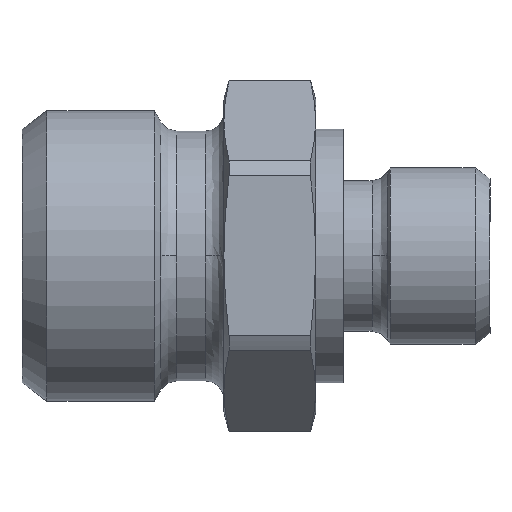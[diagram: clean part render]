
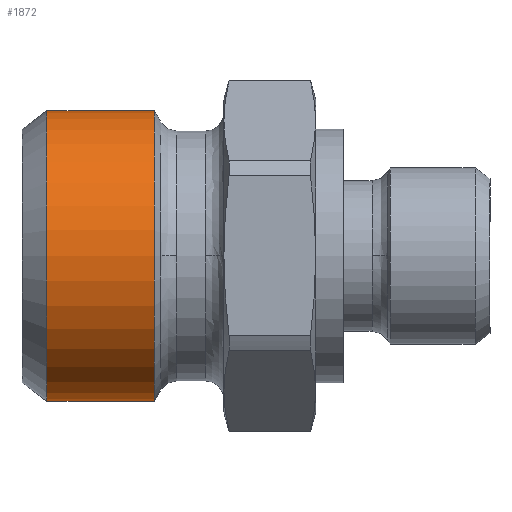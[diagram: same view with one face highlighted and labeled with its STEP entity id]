
A CAD part, top view. The second image highlights one B-rep face of the part: STEP entity #1872.
In plain terms, the highlighted cylindrical face has radius 7.925 mm (diameter 15.85 mm), a partial arc.
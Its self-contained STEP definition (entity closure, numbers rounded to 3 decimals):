
#908=CARTESIAN_POINT('',(0.,-7.925,12.14));
#909=VERTEX_POINT('',#908);
#910=CARTESIAN_POINT('',(0.,-7.925,6.3));
#911=VERTEX_POINT('',#910);
#912=CARTESIAN_POINT('',(0.,-7.925,12.14));
#913=DIRECTION('',(0.0,0.0,-1.0));
#914=VECTOR('',#913,5.84);
#915=LINE('',#912,#914);
#916=EDGE_CURVE('',#909,#911,#915,.T.);
#918=CARTESIAN_POINT('',(0.,7.925,12.14));
#919=VERTEX_POINT('',#918);
#927=CARTESIAN_POINT('',(0.,7.925,6.3));
#928=VERTEX_POINT('',#927);
#929=CARTESIAN_POINT('',(0.,7.925,6.3));
#930=DIRECTION('',(0.0,0.0,1.0));
#931=VECTOR('',#930,5.84);
#932=LINE('',#929,#931);
#933=EDGE_CURVE('',#928,#919,#932,.T.);
#1748=CARTESIAN_POINT('',(0.,0.,6.3));
#1749=DIRECTION('',(0.0,0.0,-1.0));
#1750=DIRECTION('',(0.0,-1.0,0.0));
#1751=AXIS2_PLACEMENT_3D('',#1748,#1749,#1750);
#1752=CIRCLE('',#1751,7.925);
#1753=EDGE_CURVE('',#928,#911,#1752,.T.);
#1849=CARTESIAN_POINT('',(0.,0.,12.14));
#1850=DIRECTION('',(0.0,0.0,-1.0));
#1851=DIRECTION('',(0.0,-1.0,0.0));
#1852=AXIS2_PLACEMENT_3D('',#1849,#1850,#1851);
#1853=CIRCLE('',#1852,7.925);
#1854=EDGE_CURVE('',#919,#909,#1853,.T.);
#1861=CARTESIAN_POINT('',(0.,0.,9.22));
#1862=DIRECTION('',(0.,0.,-1.0));
#1863=DIRECTION('',(0.0,-1.0,0.0));
#1864=AXIS2_PLACEMENT_3D('',#1861,#1862,#1863);
#1865=CYLINDRICAL_SURFACE('',#1864,7.925);
#1866=ORIENTED_EDGE('',*,*,#916,.T.);
#1867=ORIENTED_EDGE('',*,*,#1753,.F.);
#1868=ORIENTED_EDGE('',*,*,#933,.T.);
#1869=ORIENTED_EDGE('',*,*,#1854,.T.);
#1870=EDGE_LOOP('',(#1866,#1867,#1868,#1869));
#1871=FACE_OUTER_BOUND('',#1870,.T.);
#1872=ADVANCED_FACE('',(#1871),#1865,.T.);
